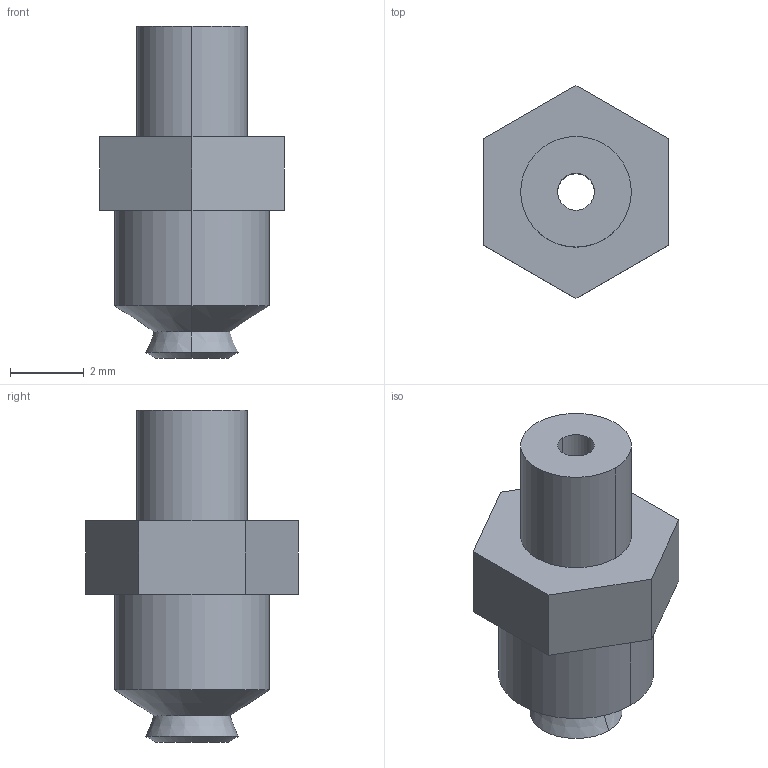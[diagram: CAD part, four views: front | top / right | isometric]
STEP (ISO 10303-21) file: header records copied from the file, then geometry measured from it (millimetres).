
FILE_DESCRIPTION (( 'STEP AP214' ), '1' );
FILE_NAME ('PFYN-2-NBR-55-M3-AG.STEP', '2021-06-29T05:07:32', ( '微软用户' ), ( '微软中国' ), 'SwSTEP 2.0', 'SolidWorks 2018', '' );
FILE_SCHEMA (( 'AUTOMOTIVE_DESIGN' ));
Length unit declared in the file: millimetre
Products named in the file (3): 10_01_01_14184_02; 10_01_01_14184_01; PFYN-2-NBR-55-M3-AG
Assembly tree (2 placements, depth 2):
  PFYN-2-NBR-55-M3-AG
    10_01_01_14184_01
    10_01_01_14184_02
Bounding box: 5 x 5.77 x 9 mm (x, y, z)
Volume: 100.9 mm3; surface area: 254.1 mm2
Topology: 2 solids, 2 shells, 41 faces, 86 edges, 54 vertices
Faces by surface type: cylinder 16, plane 15, cone 10
Entity records: 1220 total; most frequent: DIRECTION 220, CARTESIAN_POINT 186, ORIENTED_EDGE 172, AXIS2_PLACEMENT_3D 88, EDGE_CURVE 86, VERTEX_POINT 54, EDGE_LOOP 50, LINE 44
